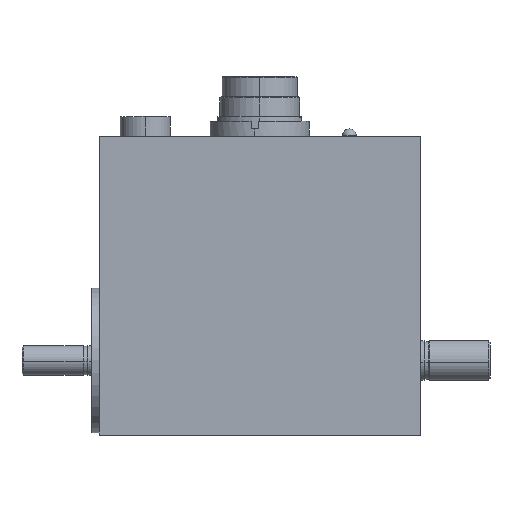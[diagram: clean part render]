
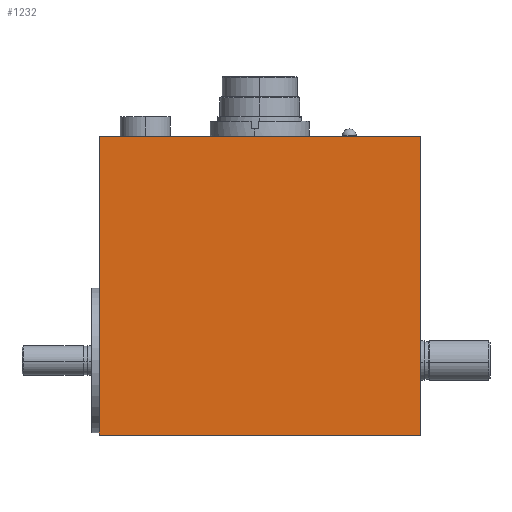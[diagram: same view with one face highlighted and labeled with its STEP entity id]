
A CAD part, top view. The second image highlights one B-rep face of the part: STEP entity #1232.
In plain terms, the highlighted planar face has unit normal (0, 0, 1).
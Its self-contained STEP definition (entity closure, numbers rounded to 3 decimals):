
#1232=ADVANCED_FACE('',(#3001),#3002,.T.);
#3001=FACE_OUTER_BOUND('',#5351,.T.);
#3002=PLANE('',#5352);
#5351=EDGE_LOOP('',(#9462,#9463,#9464,#9465));
#5352=AXIS2_PLACEMENT_3D('',#9466,#9467,#9468);
#9462=ORIENTED_EDGE('',*,*,#14830,.F.);
#9463=ORIENTED_EDGE('',*,*,#14843,.F.);
#9464=ORIENTED_EDGE('',*,*,#14907,.F.);
#9465=ORIENTED_EDGE('',*,*,#15021,.F.);
#9466=CARTESIAN_POINT('',(-0.25,0.,20.0));
#9467=DIRECTION('',(0.0,0.0,1.0));
#9468=DIRECTION('',(1.0,-0.0,0.0));
#14830=EDGE_CURVE('',#18012,#18013,#18014,.T.);
#14843=EDGE_CURVE('',#18029,#18012,#18030,.T.);
#14907=EDGE_CURVE('',#18096,#18029,#18097,.T.);
#15021=EDGE_CURVE('',#18013,#18096,#18316,.T.);
#18012=VERTEX_POINT('',#22421);
#18013=VERTEX_POINT('',#22422);
#18014=LINE('',#22423,#22424);
#18029=VERTEX_POINT('',#22442);
#18030=LINE('',#22443,#22444);
#18096=VERTEX_POINT('',#22514);
#18097=LINE('',#22515,#22516);
#18316=LINE('',#22954,#22955);
#22421=CARTESIAN_POINT('',(-32.5,-15.0,20.0));
#22422=CARTESIAN_POINT('',(-32.5,45.,20.0));
#22423=CARTESIAN_POINT('',(-32.5,-15.,20.));
#22424=VECTOR('',#27863,60.0);
#22442=CARTESIAN_POINT('',(32.,-15.0,20.0));
#22443=CARTESIAN_POINT('',(32.,-15.0,20.0));
#22444=VECTOR('',#27888,64.5);
#22514=CARTESIAN_POINT('',(32.,45.,20.));
#22515=CARTESIAN_POINT('',(32.,45.0,20.0));
#22516=VECTOR('',#27959,60.0);
#22954=CARTESIAN_POINT('',(-32.5,45.,20.0));
#22955=VECTOR('',#28052,64.5);
#27863=DIRECTION('',(0.0,1.0,0.0));
#27888=DIRECTION('',(-1.0,0.0,0.0));
#27959=DIRECTION('',(0.0,-1.0,0.0));
#28052=DIRECTION('',(1.0,0.0,0.0));
